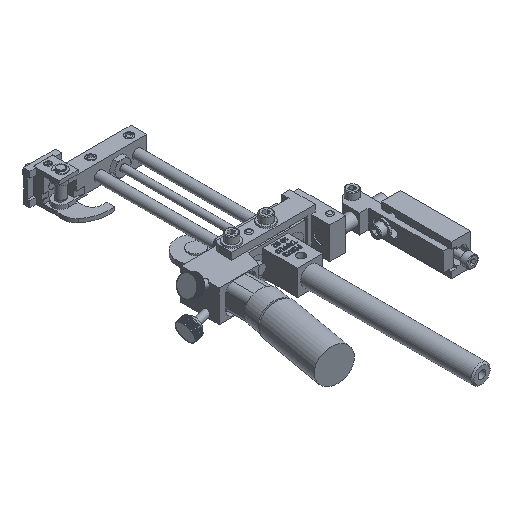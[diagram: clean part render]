
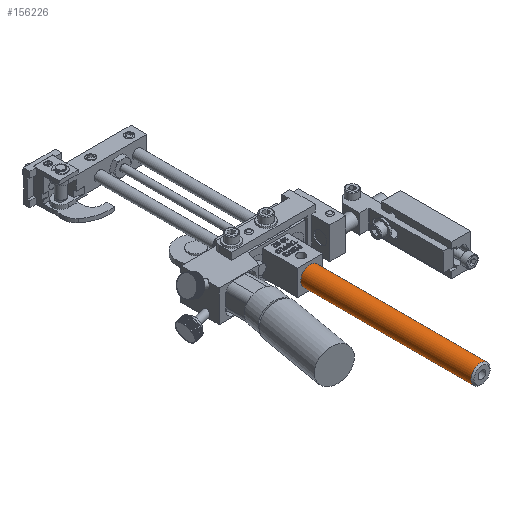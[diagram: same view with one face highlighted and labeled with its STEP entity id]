
A CAD part, isometric view. The second image highlights one B-rep face of the part: STEP entity #156226.
In plain terms, the highlighted cylindrical face has radius 4.763 mm (diameter 9.525 mm), a full revolution.
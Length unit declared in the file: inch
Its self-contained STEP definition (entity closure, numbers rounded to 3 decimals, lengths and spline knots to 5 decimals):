
#156002=CARTESIAN_POINT('',(0.44663,-3.97033,-0.04751));
#156003=VERTEX_POINT('',#156002);
#156004=CARTESIAN_POINT('',(0.44663,-3.97033,-0.23501));
#156005=DIRECTION('',(0.0,1.0,0.0));
#156006=DIRECTION('',(0.0,0.0,-1.0));
#156007=AXIS2_PLACEMENT_3D('',#156004,#156005,#156006);
#156008=CIRCLE('',#156007,0.1875);
#156009=EDGE_CURVE('',#156003,#156003,#156008,.T.);
#156207=CARTESIAN_POINT('',(0.44663,-3.97033,-0.23501));
#156208=DIRECTION('',(0.,-1.0,0.));
#156209=DIRECTION('',(0.0,0.0,-1.0));
#156210=AXIS2_PLACEMENT_3D('',#156207,#156208,#156209);
#156211=CYLINDRICAL_SURFACE('',#156210,0.1875);
#156212=ORIENTED_EDGE('',*,*,#156009,.F.);
#156213=EDGE_LOOP('',(#156212));
#156214=FACE_OUTER_BOUND('',#156213,.T.);
#156215=CARTESIAN_POINT('',(0.44663,-7.31533,-0.04751));
#156216=VERTEX_POINT('',#156215);
#156217=CARTESIAN_POINT('',(0.44663,-7.31533,-0.23501));
#156218=DIRECTION('',(0.0,-1.0,0.0));
#156219=DIRECTION('',(0.0,0.0,-1.0));
#156220=AXIS2_PLACEMENT_3D('',#156217,#156218,#156219);
#156221=CIRCLE('',#156220,0.1875);
#156222=EDGE_CURVE('',#156216,#156216,#156221,.T.);
#156223=ORIENTED_EDGE('',*,*,#156222,.F.);
#156224=EDGE_LOOP('',(#156223));
#156225=FACE_BOUND('',#156224,.T.);
#156226=ADVANCED_FACE('',(#156214,#156225),#156211,.T.);
